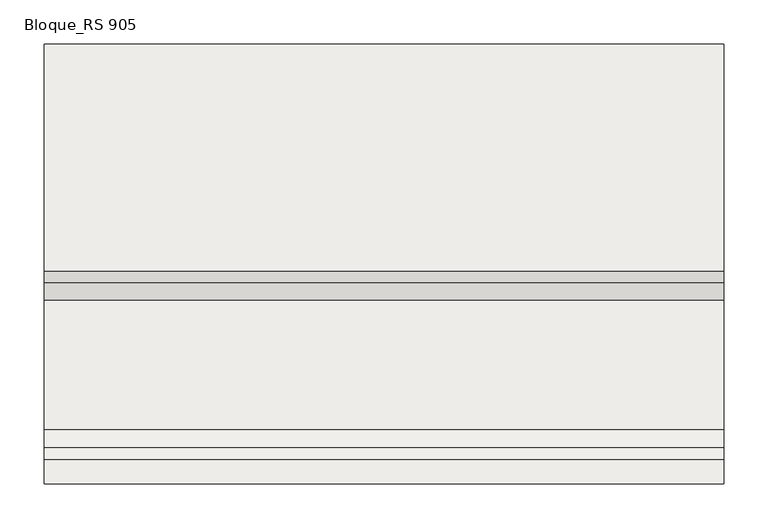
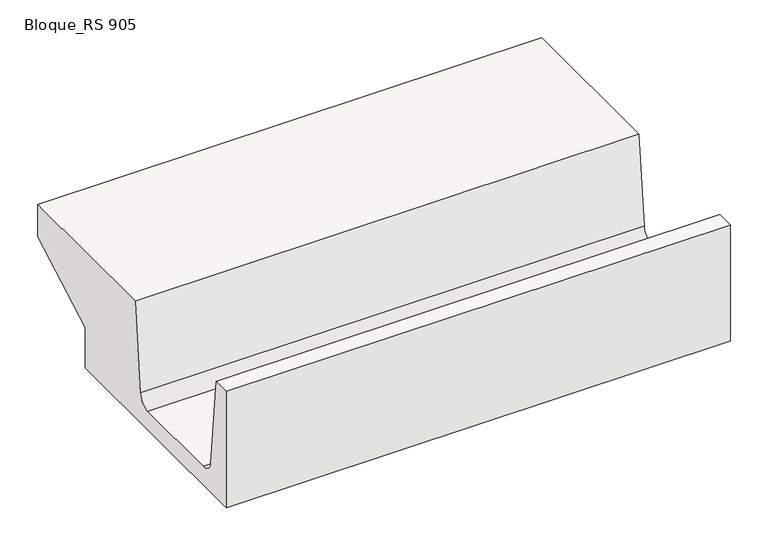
"""IFC4 building model written with IfcOpenShell, lengths in millimetres: slab geometry, ROSA GRES_RS 905 : Bloque_RS 905."""

import ifcopenshell
import ifcopenshell.guid

model = None  # the IFC model being written
_history = None  # IfcOwnerHistory: only IFC2X3 demands one
_inside = {}  # id of a spatial element -> (the spatial element, [elements in it])
_under = {}  # id of a project, library or spatial element -> (it, [spatial elements below it])
_declared = {}  # id of a project -> (the project, [libraries it declares])
_typed = {}  # id of a type object -> (the type object, [elements of that type])
_made_of = {}  # id of a material, layer set ... -> (it, [elements and type objects made of it])


def new_model(schema):
    """Start an empty IFC model of exactly this schema.

    Asked for "IFC4X3", IfcOpenShell would pick the latest addendum, in which some entities
    have other attributes; the version numbers below select the first issue.
    IFC2X3 requires an IfcOwnerHistory on every rooted entity: one is made here for all.
    """
    global model, _history
    if schema == "IFC4X3":
        model = ifcopenshell.file(schema_version=(4, 3, 0, 0))
    else:
        model = ifcopenshell.file(schema=schema)
    _inside.clear()
    _under.clear()
    _declared.clear()
    _typed.clear()
    _made_of.clear()
    _history = None
    if model.schema == "IFC2X3":
        org = make("IfcOrganization", Name="unknown")
        user = make(
            "IfcPersonAndOrganization",
            ThePerson=make("IfcPerson", FamilyName="unknown"),
            TheOrganization=org,
        )
        app = make(
            "IfcApplication",
            ApplicationDeveloper=org,
            Version="unknown",
            ApplicationFullName="unknown",
            ApplicationIdentifier="unknown",
        )
        _history = make(
            "IfcOwnerHistory",
            OwningUser=user,
            OwningApplication=app,
            ChangeAction="ADDED",
            CreationDate=0,
        )
    return model


def make(cls, **values):
    """One entity of the class cls with the attributes given. An attribute that is None is left unset."""
    return model.create_entity(
        cls, **{name: value for name, value in values.items() if value is not None}
    )


def rooted(cls, **values):
    """An entity with a GlobalId (a new one), such as an element, a storey or a relation."""
    return make(cls, GlobalId=ifcopenshell.guid.new(), OwnerHistory=_history, **values)


def si_unit(unit_type, name, prefix=None):
    """IfcSIUnit, for example si_unit("LENGTHUNIT", "METRE", prefix="MILLI")."""
    return make("IfcSIUnit", UnitType=unit_type, Prefix=prefix, Name=name)


def assignment(units):
    """IfcUnitAssignment: the units of a project."""
    return None if units is None else make("IfcUnitAssignment", Units=units)


def point(xyz):
    """IfcCartesianPoint."""
    return None if xyz is None else make("IfcCartesianPoint", Coordinates=xyz)


def direction(xyz):
    """IfcDirection."""
    return None if xyz is None else make("IfcDirection", DirectionRatios=xyz)


def frame(location, z_axis=None, x_axis=None):
    """IfcAxis2Placement3D, a coordinate frame: its origin and axes. An axis left out is left unset."""
    return make(
        "IfcAxis2Placement3D",
        Location=point(location),
        Axis=direction(z_axis),
        RefDirection=direction(x_axis),
    )


def frame_2d(location, x_axis=None):
    """IfcAxis2Placement2D, a coordinate frame in the plane: its origin and x axis."""
    return make(
        "IfcAxis2Placement2D", Location=point(location), RefDirection=direction(x_axis)
    )


def origin():
    """The frame at (0, 0, 0) with its axes left unset."""
    return frame((0.0, 0.0, 0.0))


def place(relative_to, where):
    """IfcLocalPlacement: puts the frame where relative to a parent placement (None: the world)."""
    return make(
        "IfcLocalPlacement", PlacementRelTo=relative_to, RelativePlacement=where
    )


def context(
    kind, dimensions, precision=None, world=None, true_north=None, identifier=None
):
    """IfcGeometricRepresentationContext, for example the 3D "Model" context."""
    return make(
        "IfcGeometricRepresentationContext",
        ContextIdentifier=identifier,
        ContextType=kind,
        CoordinateSpaceDimension=dimensions,
        Precision=precision,
        WorldCoordinateSystem=world,
        TrueNorth=true_north,
    )


def project(units=None, contexts=None):
    """IfcProject with its units and contexts."""
    return rooted(
        "IfcProject",
        Name="project",
        RepresentationContexts=contexts,
        UnitsInContext=assignment(units),
    )


def spatial(cls, under=None, at=None, **own):
    """A site, building, storey or space (cls), placed at a placement, below another one or the project."""
    s = rooted(cls, ObjectPlacement=at, **own)
    if under is not None:
        _under.setdefault(under.id(), (under, []))[1].append(s)
    return s


def polyline(points):
    """IfcPolyline through the points."""
    return make("IfcPolyline", Points=[point(p) for p in points])


def circle_curve(where, radius):
    """IfcCircle in the frame where."""
    return make("IfcCircle", Position=where, Radius=radius)


def trimmed(basis, trim1, trim2, sense, master):
    """IfcTrimmedCurve: the piece of a basis curve between two trims."""
    return make(
        "IfcTrimmedCurve",
        BasisCurve=basis,
        Trim1=trim1,
        Trim2=trim2,
        SenseAgreement=sense,
        MasterRepresentation=master,
    )


def segment(curve, same_sense, transition):
    """IfcCompositeCurveSegment."""
    return make(
        "IfcCompositeCurveSegment",
        Transition=transition,
        SameSense=same_sense,
        ParentCurve=curve,
    )


def composite_curve(segments, self_intersect=None):
    """IfcCompositeCurve: segments joined end to end."""
    return make("IfcCompositeCurve", Segments=segments, SelfIntersect=self_intersect)


def outline(outer, holes=None, kind="AREA"):
    """IfcArbitraryClosedProfileDef: a profile drawn as a closed curve; with holes, ...WithVoids."""
    if holes is None:
        return make("IfcArbitraryClosedProfileDef", ProfileType=kind, OuterCurve=outer)
    return make(
        "IfcArbitraryProfileDefWithVoids",
        ProfileType=kind,
        OuterCurve=outer,
        InnerCurves=holes,
    )


def extrude(swept, where, along, depth):
    """IfcExtrudedAreaSolid: the profile swept, set in the frame where, extruded along a direction by depth."""
    return make(
        "IfcExtrudedAreaSolid",
        SweptArea=swept,
        Position=where,
        ExtrudedDirection=direction(along),
        Depth=depth,
    )


def shape(context_of_items, identifier, shape_type, items):
    """IfcShapeRepresentation: the items that make up one representation, for example the "Body"."""
    return make(
        "IfcShapeRepresentation",
        ContextOfItems=context_of_items,
        RepresentationIdentifier=identifier,
        RepresentationType=shape_type,
        Items=items,
    )


def source(mapping_origin, context_of_items, identifier, shape_type, items):
    """IfcRepresentationMap: a shape defined once, which mapped items show again and again."""
    return make(
        "IfcRepresentationMap",
        MappingOrigin=mapping_origin,
        MappedRepresentation=shape(context_of_items, identifier, shape_type, items),
    )


def transform(
    local_origin,
    x_axis=None,
    y_axis=None,
    z_axis=None,
    scale=None,
    scale2=None,
    scale3=None,
    uniform=True,
):
    """IfcCartesianTransformationOperator3D, or its non-uniform kind. x_axis, y_axis, z_axis: its Axis1, 2, 3."""
    if uniform:
        return make(
            "IfcCartesianTransformationOperator3D",
            Axis1=direction(x_axis),
            Axis2=direction(y_axis),
            LocalOrigin=point(local_origin),
            Scale=scale,
            Axis3=direction(z_axis),
        )
    return make(
        "IfcCartesianTransformationOperator3DnonUniform",
        Axis1=direction(x_axis),
        Axis2=direction(y_axis),
        LocalOrigin=point(local_origin),
        Scale=scale,
        Axis3=direction(z_axis),
        Scale2=scale2,
        Scale3=scale3,
    )


def mapped(mapping_source, mapping_target):
    """IfcMappedItem: shows the shape of a source again, moved by a transform."""
    return make(
        "IfcMappedItem", MappingSource=mapping_source, MappingTarget=mapping_target
    )


def made_of(thing, what):
    """Note that an element or type object is made of a material, layer set ...; save() writes the relation."""
    if what is not None:
        _made_of.setdefault(what.id(), (what, []))[1].append(thing)
    return thing


def element(
    cls,
    number,
    at=None,
    inside=None,
    cuts=None,
    type_object=None,
    material=None,
    context=None,
    identifier="Body",
    shape_type=None,
    held_by="IfcProductDefinitionShape",
    body=None,
    shapes=None,
    **own,
):
    """One element of the class cls, such as IfcWall. Its Tag is "e" and its number.

    at: its placement. inside: the storey or other place that contains it. cuts: it is an
    opening in that element (IfcRelVoidsElement). A single representation is given by context,
    identifier, shape_type and body (its items); several are given by shapes. held_by: the class
    of the entity that holds the representations. save() writes the other relations.
    """
    e = rooted(cls, Tag="e%d" % number, ObjectPlacement=at, **own)
    if body is not None:
        shapes = [shape(context, identifier, shape_type, body)]
    if shapes is not None:
        e.Representation = make(held_by, Representations=shapes)
    if inside is not None:
        _inside.setdefault(inside.id(), (inside, []))[1].append(e)
    if cuts is not None:
        rooted(
            "IfcRelVoidsElement", RelatingBuildingElement=cuts, RelatedOpeningElement=e
        )
    if type_object is not None:
        _typed.setdefault(type_object.id(), (type_object, []))[1].append(e)
    return made_of(e, material)


def aggregate(whole, parts):
    """IfcRelAggregates: a whole, such as a stair, and the parts it consists of."""
    return rooted("IfcRelAggregates", RelatingObject=whole, RelatedObjects=parts)


def save(model, path):
    """Write the relations noted so far, then the file.

    IfcRelAggregates (storeys below a building ...), IfcRelContainedInSpatialStructure (elements
    in a storey), IfcRelDefinesByType, IfcRelAssociatesMaterial and IfcRelDeclares: one each for
    every whole, place, type object, material and project.
    """
    for whole, parts in _under.values():
        aggregate(whole, parts)
    for where, things in _inside.values():
        rooted(
            "IfcRelContainedInSpatialStructure",
            RelatedElements=things,
            RelatingStructure=where,
        )
    for kind, things in _typed.values():
        rooted("IfcRelDefinesByType", RelatedObjects=things, RelatingType=kind)
    for what, things in _made_of.values():
        rooted("IfcRelAssociatesMaterial", RelatedObjects=things, RelatingMaterial=what)
    for by, libraries in _declared.values():
        rooted("IfcRelDeclares", RelatingContext=by, RelatedDefinitions=libraries)
    model.write(path)


def bloque_rs_905_b3f01087(model_context):
    return source(origin(), model_context, "Body", "SweptSolid", [
        extrude(outline(composite_curve([segment(polyline([(-12.836227, 188.7539108), (-12.836227, 137.7539108), (-137.836227, 66.7539108), (-137.836227, 1.7539108), (-508.836227, 1.7539108), (-508.836227, 188.7539108), (-481.967602, 188.7539108), (-468.4315983, 49.1487962)]), True, "CONTINUOUS"), segment(trimmed(circle_curve(frame_2d((-448.7892677, 51.599206)), 19.7945866), [point((-468.4315983, 49.1487962))], [point((-448.3978535, 31.8084896))], True, "CARTESIAN"), True, "CONTINUOUS"), segment(polyline([(-448.3978535, 31.8084896), (-302.2746005, 31.8084896)]), True, "CONTINUOUS"), segment(trimmed(circle_curve(frame_2d((-301.8831862, 51.599206)), 19.7945866), [point((-302.2746005, 31.8084896))], [point((-282.2408556, 49.1487962))], True, "CARTESIAN"), True, "CONTINUOUS"), segment(polyline([(-282.2408556, 49.1487962), (-268.704852, 188.7539108), (-12.836227, 188.7539108)]), True, "CONTINUOUS")], self_intersect=False)), frame((0.0, 0.0, 0.0), z_axis=(1.0, 0.0, 0.0), x_axis=(0.0, 1.0, 0.0)), (0.0, 0.0, 1.0), 766.2988646),
    ])


if __name__ == "__main__":
    model = new_model("IFC4")
    model_context = context("Model", 3, world=origin())
    ifc_project = project(units=[si_unit("LENGTHUNIT", "METRE", prefix="MILLI")], contexts=[model_context])
    site = spatial("IfcSite", under=ifc_project)
    building = spatial("IfcBuilding", under=site)
    placement = place(None, origin())
    bloque_rs_905_shape = bloque_rs_905_b3f01087(model_context)
    element("IfcSlab", 1, ObjectType="ROSA GRES_RS 905 : Bloque_RS 905", at=placement, inside=building, context=model_context, shape_type="MappedRepresentation", body=[
        mapped(bloque_rs_905_shape, transform((0.0, 0.0, 0.0), x_axis=(1.0, 0.0, 0.0), y_axis=(0.0, 1.0, 0.0), z_axis=(0.0, 0.0, 1.0))),
    ])
    save(model, "model.ifc")
